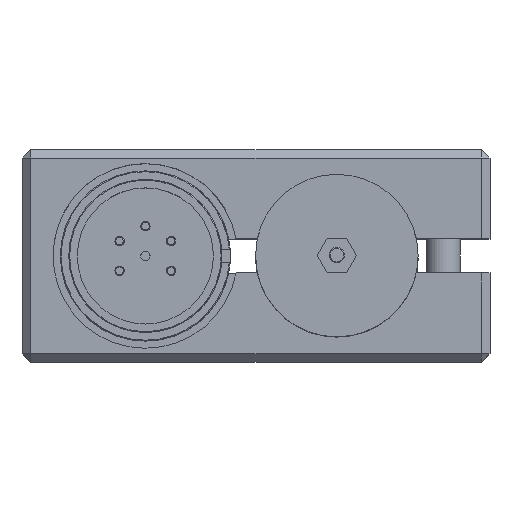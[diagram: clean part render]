
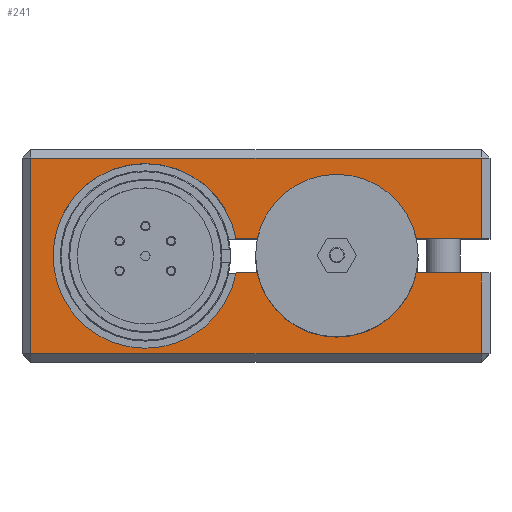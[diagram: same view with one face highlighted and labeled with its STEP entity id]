
A CAD part, top view. The second image highlights one B-rep face of the part: STEP entity #241.
In plain terms, the highlighted planar face has unit normal (0, 0, 1).
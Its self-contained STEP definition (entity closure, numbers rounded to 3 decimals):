
#241=ADVANCED_FACE('',(#537),#538,.T.);
#537=FACE_OUTER_BOUND('',#1064,.T.);
#538=PLANE('',#1065);
#1064=EDGE_LOOP('',(#2108,#2109,#2110,#2111,#2112,#2113,#2114,#2115,#2116,#2117,#2118,#2119,#2120));
#1065=AXIS2_PLACEMENT_3D('',#2121,#2122,#2123);
#2108=ORIENTED_EDGE('',*,*,#3530,.F.);
#2109=ORIENTED_EDGE('',*,*,#3526,.F.);
#2110=ORIENTED_EDGE('',*,*,#3531,.F.);
#2111=ORIENTED_EDGE('',*,*,#3533,.F.);
#2112=ORIENTED_EDGE('',*,*,#3541,.F.);
#2113=ORIENTED_EDGE('',*,*,#3544,.T.);
#2114=ORIENTED_EDGE('',*,*,#3450,.T.);
#2115=ORIENTED_EDGE('',*,*,#3545,.T.);
#2116=ORIENTED_EDGE('',*,*,#3546,.T.);
#2117=ORIENTED_EDGE('',*,*,#3388,.T.);
#2118=ORIENTED_EDGE('',*,*,#3547,.T.);
#2119=ORIENTED_EDGE('',*,*,#3440,.T.);
#2120=ORIENTED_EDGE('',*,*,#3548,.T.);
#2121=CARTESIAN_POINT('',(27.5,12.5,15.0));
#2122=DIRECTION('',(0.0,0.0,1.0));
#2123=DIRECTION('',(1.0,0.0,0.0));
#3388=EDGE_CURVE('',#4323,#4327,#4329,.T.);
#3440=EDGE_CURVE('',#4430,#4431,#4432,.T.);
#3450=EDGE_CURVE('',#4448,#4449,#4450,.T.);
#3526=EDGE_CURVE('',#4527,#4533,#4563,.T.);
#3530=EDGE_CURVE('',#4533,#4565,#4569,.T.);
#3531=EDGE_CURVE('',#4511,#4527,#4570,.T.);
#3533=EDGE_CURVE('',#4499,#4511,#4572,.T.);
#3541=EDGE_CURVE('',#4582,#4499,#4584,.T.);
#3544=EDGE_CURVE('',#4582,#4448,#4587,.T.);
#3545=EDGE_CURVE('',#4449,#4588,#4589,.T.);
#3546=EDGE_CURVE('',#4588,#4323,#4590,.T.);
#3547=EDGE_CURVE('',#4327,#4430,#4591,.T.);
#3548=EDGE_CURVE('',#4431,#4565,#4592,.T.);
#4323=VERTEX_POINT('',#5240);
#4327=VERTEX_POINT('',#5245);
#4329=CIRCLE('',#5248,10.85);
#4430=VERTEX_POINT('',#5407);
#4431=VERTEX_POINT('',#5408);
#4432=CIRCLE('',#5409,9.55);
#4448=VERTEX_POINT('',#5429);
#4449=VERTEX_POINT('',#5430);
#4450=CIRCLE('',#5431,9.55);
#4499=VERTEX_POINT('',#5530);
#4511=VERTEX_POINT('',#5548);
#4527=VERTEX_POINT('',#5574);
#4533=VERTEX_POINT('',#5583);
#4563=LINE('',#5633,#5634);
#4565=VERTEX_POINT('',#5637);
#4569=LINE('',#5643,#5644);
#4570=LINE('',#5645,#5646);
#4572=LINE('',#5649,#5650);
#4582=VERTEX_POINT('',#5666);
#4584=LINE('',#5669,#5670);
#4587=LINE('',#5675,#5676);
#4588=VERTEX_POINT('',#5677);
#4589=LINE('',#5678,#5679);
#4590=CIRCLE('',#5680,10.85);
#4591=LINE('',#5681,#5682);
#4592=LINE('',#5683,#5684);
#5240=CARTESIAN_POINT('',(3.65,12.5,15.0));
#5245=CARTESIAN_POINT('',(25.164,14.5,15.0));
#5248=AXIS2_PLACEMENT_3D('',#6718,#6719,#6720);
#5407=CARTESIAN_POINT('',(27.662,14.5,15.0));
#5408=CARTESIAN_POINT('',(46.338,14.5,15.0));
#5409=AXIS2_PLACEMENT_3D('',#6818,#6819,#6820);
#5429=CARTESIAN_POINT('',(46.338,10.5,15.0));
#5430=CARTESIAN_POINT('',(27.662,10.5,15.0));
#5431=AXIS2_PLACEMENT_3D('',#6840,#6841,#6842);
#5530=CARTESIAN_POINT('',(54.0,1.0,15.0));
#5548=CARTESIAN_POINT('',(1.0,1.0,15.0));
#5574=CARTESIAN_POINT('',(1.,24.0,15.0));
#5583=CARTESIAN_POINT('',(54.0,24.0,15.0));
#5633=CARTESIAN_POINT('',(1.0,24.0,15.0));
#5634=VECTOR('',#6950,53.0);
#5637=CARTESIAN_POINT('',(54.0,14.5,15.0));
#5643=CARTESIAN_POINT('',(54.0,24.0,15.0));
#5644=VECTOR('',#6954,9.5);
#5645=CARTESIAN_POINT('',(1.0,1.0,15.0));
#5646=VECTOR('',#6955,23.0);
#5649=CARTESIAN_POINT('',(54.0,1.0,15.0));
#5650=VECTOR('',#6957,53.0);
#5666=CARTESIAN_POINT('',(54.0,10.5,15.0));
#5669=CARTESIAN_POINT('',(54.0,10.5,15.0));
#5670=VECTOR('',#6965,9.5);
#5675=CARTESIAN_POINT('',(54.0,10.5,15.0));
#5676=VECTOR('',#6968,7.662);
#5677=CARTESIAN_POINT('',(25.164,10.5,15.0));
#5678=CARTESIAN_POINT('',(27.662,10.5,15.0));
#5679=VECTOR('',#6969,2.498);
#5680=AXIS2_PLACEMENT_3D('',#6970,#6971,#6972);
#5681=CARTESIAN_POINT('',(25.164,14.5,15.0));
#5682=VECTOR('',#6973,2.498);
#5683=CARTESIAN_POINT('',(46.338,14.5,15.0));
#5684=VECTOR('',#6974,7.662);
#6718=CARTESIAN_POINT('',(14.5,12.5,15.0));
#6719=DIRECTION('',(0.0,0.0,-1.0));
#6720=DIRECTION('',(1.0,0.0,0.0));
#6818=CARTESIAN_POINT('',(37.0,12.5,15.0));
#6819=DIRECTION('',(0.0,0.0,-1.0));
#6820=DIRECTION('',(1.0,0.0,0.0));
#6840=CARTESIAN_POINT('',(37.0,12.5,15.0));
#6841=DIRECTION('',(0.0,0.0,-1.0));
#6842=DIRECTION('',(1.0,0.0,0.0));
#6950=DIRECTION('',(1.0,0.0,0.0));
#6954=DIRECTION('',(0.0,-1.0,0.0));
#6955=DIRECTION('',(0.0,1.0,0.0));
#6957=DIRECTION('',(-1.0,0.0,0.0));
#6965=DIRECTION('',(0.0,-1.0,0.0));
#6968=DIRECTION('',(-1.0,0.0,0.0));
#6969=DIRECTION('',(-1.0,0.0,0.0));
#6970=CARTESIAN_POINT('',(14.5,12.5,15.0));
#6971=DIRECTION('',(0.0,0.0,-1.0));
#6972=DIRECTION('',(1.0,0.0,0.0));
#6973=DIRECTION('',(1.0,0.0,0.0));
#6974=DIRECTION('',(1.0,0.0,0.0));
